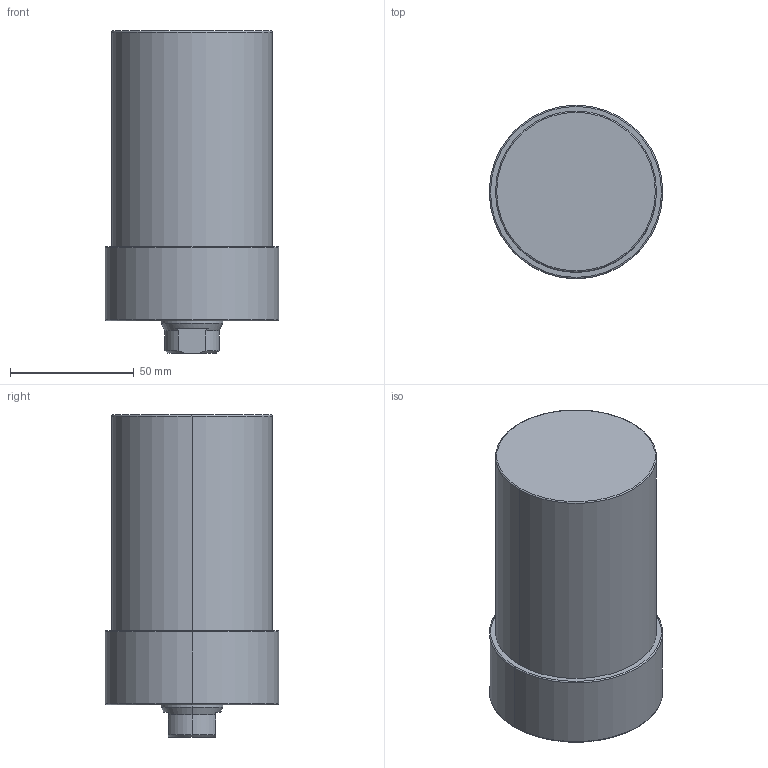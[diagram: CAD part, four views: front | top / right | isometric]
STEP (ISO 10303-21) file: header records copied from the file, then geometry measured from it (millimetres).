
FILE_DESCRIPTION (( 'STEP AP203' ), '1' );
FILE_NAME ('CLLU-065GA-070.STEP', '2020-01-06T08:20:45', ( '' ), ( '' ), 'SwSTEP 2.0', 'SolidWorks 2015', '' );
FILE_SCHEMA (( 'CONFIG_CONTROL_DESIGN' ));
Length unit declared in the file: millimetre
Products named in the file (1): CLLU-065GA-070
Bounding box: 70 x 70 x 130 mm (x, y, z)
Volume: 404683.5 mm3; surface area: 34929.5 mm2
Topology: 1 solids, 1 shells, 64 faces, 145 edges, 82 vertices
Faces by surface type: cone 25, cylinder 23, plane 10, torus 6
Entity records: 1811 total; most frequent: DIRECTION 332, CARTESIAN_POINT 310, ORIENTED_EDGE 270, AXIS2_PLACEMENT_3D 140, EDGE_CURVE 135, VERTEX_POINT 82, CIRCLE 75, EDGE_LOOP 73
